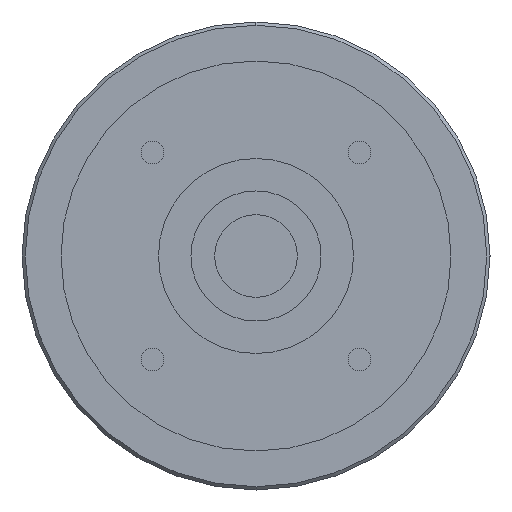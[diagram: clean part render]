
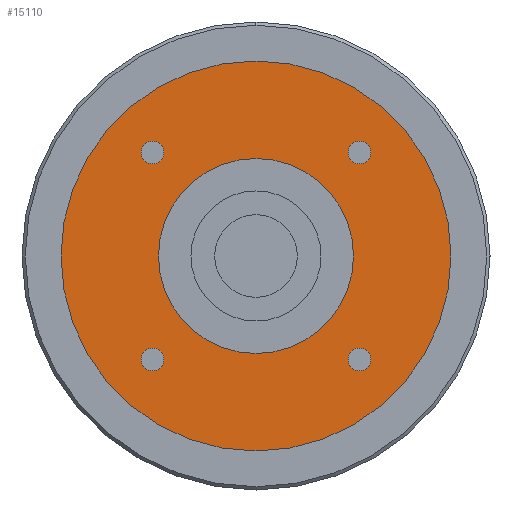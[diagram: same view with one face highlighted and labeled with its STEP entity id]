
A CAD part, left-side view. The second image highlights one B-rep face of the part: STEP entity #15110.
In plain terms, the highlighted planar face has unit normal (-1, 0, 0) as drawn and (0, 0, -1) by its records, which use the part's own axes.
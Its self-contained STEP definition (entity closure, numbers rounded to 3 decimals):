
#11890=CARTESIAN_POINT('',(0.,0.,
-95.));
#11900=DIRECTION('',(0.,0.,1.));
#11910=DIRECTION('',(0.,-1.,0.));
#11920=AXIS2_PLACEMENT_3D('',#11890,#11900,#11910);
#11930=CIRCLE('',#11920,15.);
#11940=CARTESIAN_POINT('',(0.,-15.,-95.));
#11950=VERTEX_POINT('',#11940);
#11960=CARTESIAN_POINT('',(15.,0.,-95.));
#11970=VERTEX_POINT('',#11960);
#11980=EDGE_CURVE('',#11950,#11970,#11930,.T.);
#12210=CARTESIAN_POINT('',(-15.,0.,-95.));
#12220=VERTEX_POINT('',#12210);
#12250=EDGE_CURVE('',#12220,#11950,#11930,.T.);
#12390=CARTESIAN_POINT('',(-14.16,-15.91,-95.));
#12400=VERTEX_POINT('',#12390);
#12580=CARTESIAN_POINT('',(-17.66,-15.91,-95.));
#12590=VERTEX_POINT('',#12580);
#12620=CARTESIAN_POINT('',(-15.91,-15.91,-95.));
#12630=DIRECTION('',(0.,0.,-1.));
#12640=DIRECTION('',(0.,-1.,0.));
#12650=AXIS2_PLACEMENT_3D('',#12620,#12630,#12640);
#12660=CIRCLE('',#12650,1.75);
#12670=CARTESIAN_POINT('',(-15.91,-17.66,-95.));
#12680=VERTEX_POINT('',#12670);
#12690=EDGE_CURVE('',#12680,#12590,#12660,.T.);
#12710=EDGE_CURVE('',#12400,#12680,#12660,.T.);
#14040=CARTESIAN_POINT('',(30.,0.,-95.));
#14050=VERTEX_POINT('',#14040);
#14080=CARTESIAN_POINT('',(0.,0.,
-95.));
#14090=DIRECTION('',(0.,0.,1.));
#14100=DIRECTION('',(0.,-1.,0.));
#14110=AXIS2_PLACEMENT_3D('',#14080,#14090,#14100);
#14120=CIRCLE('',#14110,30.);
#14130=CARTESIAN_POINT('',(0.,-30.,-95.));
#14140=VERTEX_POINT('',#14130);
#14150=EDGE_CURVE('',#14140,#14050,#14120,.T.);
#14170=CARTESIAN_POINT('',(-30.,0.,-95.));
#14180=VERTEX_POINT('',#14170);
#14190=EDGE_CURVE('',#14180,#14140,#14120,.T.);
#14310=CARTESIAN_POINT('',(0.,0.,
-95.));
#14320=DIRECTION('',(0.,0.,1.));
#14330=DIRECTION('',(-1.,0.,0.));
#14340=AXIS2_PLACEMENT_3D('',#14310,#14320,#14330);
#14350=PLANE('',#14340);
#14360=CARTESIAN_POINT('',(15.91,-15.91,-95.));
#14370=DIRECTION('',(0.,0.,-1.));
#14380=DIRECTION('',(1.,0.,0.));
#14390=AXIS2_PLACEMENT_3D('',#14360,#14370,#14380);
#14400=CIRCLE('',#14390,1.75);
#14410=CARTESIAN_POINT('',(17.66,-15.91,-95.));
#14420=VERTEX_POINT('',#14410);
#14430=CARTESIAN_POINT('',(15.91,-17.66,-95.));
#14440=VERTEX_POINT('',#14430);
#14450=EDGE_CURVE('',#14420,#14440,#14400,.T.);
#14460=ORIENTED_EDGE('',*,*,#14450,.F.);
#14470=CARTESIAN_POINT('',(15.91,-14.16,-95.));
#14480=VERTEX_POINT('',#14470);
#14490=EDGE_CURVE('',#14440,#14480,#14400,.T.);
#14500=ORIENTED_EDGE('',*,*,#14490,.F.);
#14510=EDGE_CURVE('',#14480,#14420,#14400,.T.);
#14520=ORIENTED_EDGE('',*,*,#14510,.F.);
#14530=EDGE_LOOP('',(#14520,#14500,#14460));
#14540=FACE_BOUND('',#14530,.T.);
#14550=CARTESIAN_POINT('',(15.91,15.91,-95.));
#14560=DIRECTION('',(0.,0.,-1.));
#14570=DIRECTION('',(0.,1.,0.));
#14580=AXIS2_PLACEMENT_3D('',#14550,#14560,#14570);
#14590=CIRCLE('',#14580,1.75);
#14600=CARTESIAN_POINT('',(15.91,17.66,-95.));
#14610=VERTEX_POINT('',#14600);
#14620=CARTESIAN_POINT('',(17.66,15.91,-95.));
#14630=VERTEX_POINT('',#14620);
#14640=EDGE_CURVE('',#14610,#14630,#14590,.T.);
#14650=ORIENTED_EDGE('',*,*,#14640,.F.);
#14660=CARTESIAN_POINT('',(14.16,15.91,-95.));
#14670=VERTEX_POINT('',#14660);
#14680=EDGE_CURVE('',#14630,#14670,#14590,.T.);
#14690=ORIENTED_EDGE('',*,*,#14680,.F.);
#14700=EDGE_CURVE('',#14670,#14610,#14590,.T.);
#14710=ORIENTED_EDGE('',*,*,#14700,.F.);
#14720=EDGE_LOOP('',(#14710,#14690,#14650));
#14730=FACE_BOUND('',#14720,.T.);
#14740=CARTESIAN_POINT('',(-15.91,15.91,-95.));
#14750=DIRECTION('',(0.,0.,-1.));
#14760=DIRECTION('',(-1.,0.,0.));
#14770=AXIS2_PLACEMENT_3D('',#14740,#14750,#14760);
#14780=CIRCLE('',#14770,1.75);
#14790=CARTESIAN_POINT('',(-17.66,15.91,-95.));
#14800=VERTEX_POINT('',#14790);
#14810=CARTESIAN_POINT('',(-15.91,17.66,-95.));
#14820=VERTEX_POINT('',#14810);
#14830=EDGE_CURVE('',#14800,#14820,#14780,.T.);
#14840=ORIENTED_EDGE('',*,*,#14830,.F.);
#14850=CARTESIAN_POINT('',(-15.91,14.16,-95.));
#14860=VERTEX_POINT('',#14850);
#14870=EDGE_CURVE('',#14820,#14860,#14780,.T.);
#14880=ORIENTED_EDGE('',*,*,#14870,.F.);
#14890=EDGE_CURVE('',#14860,#14800,#14780,.T.);
#14900=ORIENTED_EDGE('',*,*,#14890,.F.);
#14910=EDGE_LOOP('',(#14900,#14880,#14840));
#14920=FACE_BOUND('',#14910,.T.);
#14930=ORIENTED_EDGE('',*,*,#12690,.F.);
#14940=EDGE_CURVE('',#12590,#12400,#12660,.T.);
#14950=ORIENTED_EDGE('',*,*,#14940,.F.);
#14960=ORIENTED_EDGE('',*,*,#12710,.F.);
#14970=EDGE_LOOP('',(#14960,#14950,#14930));
#14980=FACE_BOUND('',#14970,.T.);
#14990=ORIENTED_EDGE('',*,*,#14150,.F.);
#15000=EDGE_CURVE('',#14050,#14180,#14120,.T.);
#15010=ORIENTED_EDGE('',*,*,#15000,.F.);
#15020=ORIENTED_EDGE('',*,*,#14190,.F.);
#15030=EDGE_LOOP('',(#15020,#15010,#14990));
#15040=FACE_OUTER_BOUND('',#15030,.T.);
#15050=EDGE_CURVE('',#11970,#12220,#11930,.T.);
#15060=ORIENTED_EDGE('',*,*,#15050,.T.);
#15070=ORIENTED_EDGE('',*,*,#11980,.T.);
#15080=ORIENTED_EDGE('',*,*,#12250,.T.);
#15090=EDGE_LOOP('',(#15080,#15070,#15060));
#15100=FACE_BOUND('',#15090,.T.);
#15110=ADVANCED_FACE('',(#14540,#14730,#14920,#14980,#15040,#15100),
#14350,.F.);
